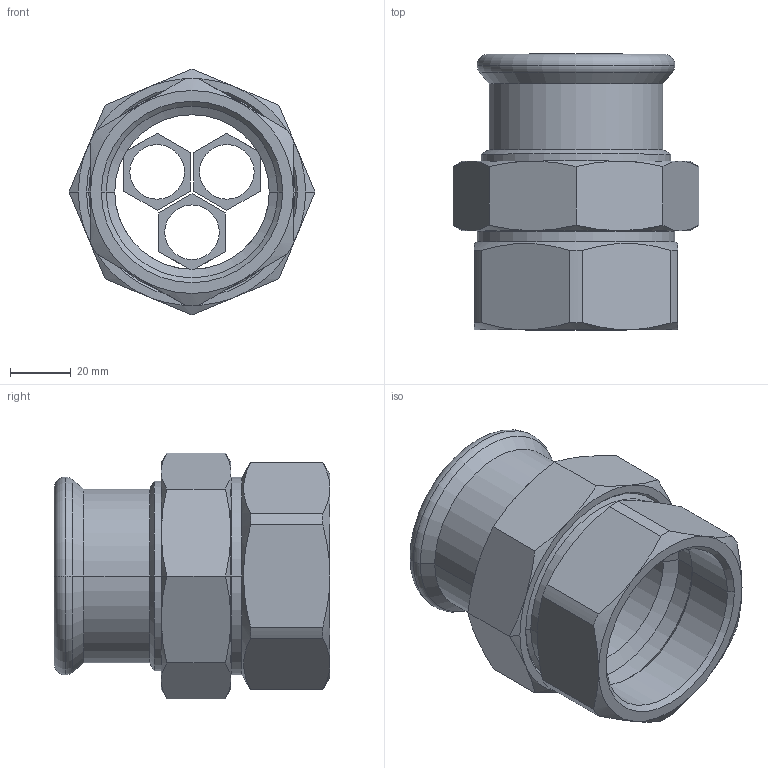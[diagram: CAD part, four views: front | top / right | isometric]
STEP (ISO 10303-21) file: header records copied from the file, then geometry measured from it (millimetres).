
FILE_DESCRIPTION(('OneSpaceDesigner STEP Export'),'2;1');
FILE_NAME('R2738 54xRp2.stp','2010-06-10T14:45:39',(''),(''),'OneSpace Designer STEP processor for AP214 (Solid Model)','OneSpace Modeling 15.00A 14-Mar-2007 (C) CoCreate Software GmbH','');
FILE_SCHEMA(('AUTOMOTIVE_DESIGN { 1 0 10303 214 1 1 1 1 }'));
Length unit declared in the file: millimetre
Products named in the file (2): R2738_54xRp2
Assembly tree (1 placements, depth 2):
  R2738_54xRp2
    R2738_54xRp2
Bounding box: 81.18 x 91 x 81.18 mm (x, y, z)
Volume: 110960.8 mm3; surface area: 49624.1 mm2
Topology: 1 solids, 1 shells, 147 faces, 342 edges, 205 vertices
Faces by surface type: cone 52, plane 48, cylinder 39, torus 8
Entity records: 5755 total; most frequent: CARTESIAN_POINT 2860, ORIENTED_EDGE 684, DIRECTION 446, EDGE_CURVE 342, VERTEX_POINT 205, EDGE_LOOP 163, VECTOR 150, LINE 150
